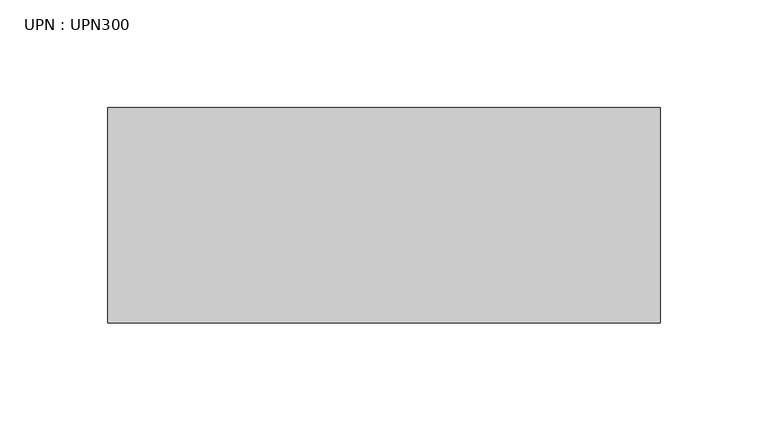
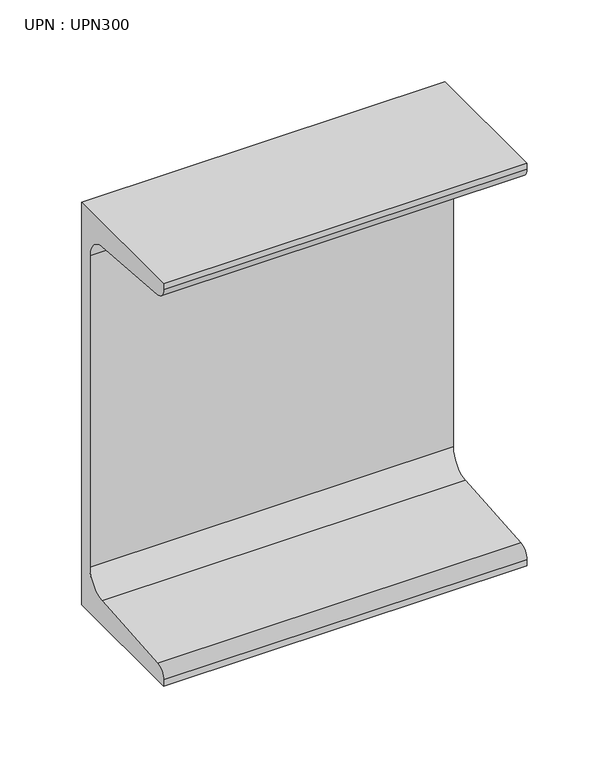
"""IFC4 building model written with IfcOpenShell, lengths in millimetres: beam geometry, UPN : UPN300."""

import ifcopenshell
import ifcopenshell.guid

model = None  # the IFC model being written
_history = None  # IfcOwnerHistory: only IFC2X3 demands one
_inside = {}  # id of a spatial element -> (the spatial element, [elements in it])
_under = {}  # id of a project, library or spatial element -> (it, [spatial elements below it])
_declared = {}  # id of a project -> (the project, [libraries it declares])
_typed = {}  # id of a type object -> (the type object, [elements of that type])
_made_of = {}  # id of a material, layer set ... -> (it, [elements and type objects made of it])


def new_model(schema):
    """Start an empty IFC model of exactly this schema.

    Asked for "IFC4X3", IfcOpenShell would pick the latest addendum, in which some entities
    have other attributes; the version numbers below select the first issue.
    IFC2X3 requires an IfcOwnerHistory on every rooted entity: one is made here for all.
    """
    global model, _history
    if schema == "IFC4X3":
        model = ifcopenshell.file(schema_version=(4, 3, 0, 0))
    else:
        model = ifcopenshell.file(schema=schema)
    _inside.clear()
    _under.clear()
    _declared.clear()
    _typed.clear()
    _made_of.clear()
    _history = None
    if model.schema == "IFC2X3":
        org = make("IfcOrganization", Name="unknown")
        user = make(
            "IfcPersonAndOrganization",
            ThePerson=make("IfcPerson", FamilyName="unknown"),
            TheOrganization=org,
        )
        app = make(
            "IfcApplication",
            ApplicationDeveloper=org,
            Version="unknown",
            ApplicationFullName="unknown",
            ApplicationIdentifier="unknown",
        )
        _history = make(
            "IfcOwnerHistory",
            OwningUser=user,
            OwningApplication=app,
            ChangeAction="ADDED",
            CreationDate=0,
        )
    return model


def make(cls, **values):
    """One entity of the class cls with the attributes given. An attribute that is None is left unset."""
    return model.create_entity(
        cls, **{name: value for name, value in values.items() if value is not None}
    )


def rooted(cls, **values):
    """An entity with a GlobalId (a new one), such as an element, a storey or a relation."""
    return make(cls, GlobalId=ifcopenshell.guid.new(), OwnerHistory=_history, **values)


def si_unit(unit_type, name, prefix=None):
    """IfcSIUnit, for example si_unit("LENGTHUNIT", "METRE", prefix="MILLI")."""
    return make("IfcSIUnit", UnitType=unit_type, Prefix=prefix, Name=name)


def assignment(units):
    """IfcUnitAssignment: the units of a project."""
    return None if units is None else make("IfcUnitAssignment", Units=units)


def point(xyz):
    """IfcCartesianPoint."""
    return None if xyz is None else make("IfcCartesianPoint", Coordinates=xyz)


def direction(xyz):
    """IfcDirection."""
    return None if xyz is None else make("IfcDirection", DirectionRatios=xyz)


def frame(location, z_axis=None, x_axis=None):
    """IfcAxis2Placement3D, a coordinate frame: its origin and axes. An axis left out is left unset."""
    return make(
        "IfcAxis2Placement3D",
        Location=point(location),
        Axis=direction(z_axis),
        RefDirection=direction(x_axis),
    )


def frame_2d(location, x_axis=None):
    """IfcAxis2Placement2D, a coordinate frame in the plane: its origin and x axis."""
    return make(
        "IfcAxis2Placement2D", Location=point(location), RefDirection=direction(x_axis)
    )


def origin():
    """The frame at (0, 0, 0) with its axes left unset."""
    return frame((0.0, 0.0, 0.0))


def place(relative_to, where):
    """IfcLocalPlacement: puts the frame where relative to a parent placement (None: the world)."""
    return make(
        "IfcLocalPlacement", PlacementRelTo=relative_to, RelativePlacement=where
    )


def context(
    kind, dimensions, precision=None, world=None, true_north=None, identifier=None
):
    """IfcGeometricRepresentationContext, for example the 3D "Model" context."""
    return make(
        "IfcGeometricRepresentationContext",
        ContextIdentifier=identifier,
        ContextType=kind,
        CoordinateSpaceDimension=dimensions,
        Precision=precision,
        WorldCoordinateSystem=world,
        TrueNorth=true_north,
    )


def project(units=None, contexts=None):
    """IfcProject with its units and contexts."""
    return rooted(
        "IfcProject",
        Name="project",
        RepresentationContexts=contexts,
        UnitsInContext=assignment(units),
    )


def spatial(cls, under=None, at=None, **own):
    """A site, building, storey or space (cls), placed at a placement, below another one or the project."""
    s = rooted(cls, ObjectPlacement=at, **own)
    if under is not None:
        _under.setdefault(under.id(), (under, []))[1].append(s)
    return s


def polyline(points):
    """IfcPolyline through the points."""
    return make("IfcPolyline", Points=[point(p) for p in points])


def circle_curve(where, radius):
    """IfcCircle in the frame where."""
    return make("IfcCircle", Position=where, Radius=radius)


def trimmed(basis, trim1, trim2, sense, master):
    """IfcTrimmedCurve: the piece of a basis curve between two trims."""
    return make(
        "IfcTrimmedCurve",
        BasisCurve=basis,
        Trim1=trim1,
        Trim2=trim2,
        SenseAgreement=sense,
        MasterRepresentation=master,
    )


def segment(curve, same_sense, transition):
    """IfcCompositeCurveSegment."""
    return make(
        "IfcCompositeCurveSegment",
        Transition=transition,
        SameSense=same_sense,
        ParentCurve=curve,
    )


def composite_curve(segments, self_intersect=None):
    """IfcCompositeCurve: segments joined end to end."""
    return make("IfcCompositeCurve", Segments=segments, SelfIntersect=self_intersect)


def outline(outer, holes=None, kind="AREA"):
    """IfcArbitraryClosedProfileDef: a profile drawn as a closed curve; with holes, ...WithVoids."""
    if holes is None:
        return make("IfcArbitraryClosedProfileDef", ProfileType=kind, OuterCurve=outer)
    return make(
        "IfcArbitraryProfileDefWithVoids",
        ProfileType=kind,
        OuterCurve=outer,
        InnerCurves=holes,
    )


def extrude(swept, where, along, depth):
    """IfcExtrudedAreaSolid: the profile swept, set in the frame where, extruded along a direction by depth."""
    return make(
        "IfcExtrudedAreaSolid",
        SweptArea=swept,
        Position=where,
        ExtrudedDirection=direction(along),
        Depth=depth,
    )


def shape(context_of_items, identifier, shape_type, items):
    """IfcShapeRepresentation: the items that make up one representation, for example the "Body"."""
    return make(
        "IfcShapeRepresentation",
        ContextOfItems=context_of_items,
        RepresentationIdentifier=identifier,
        RepresentationType=shape_type,
        Items=items,
    )


def source(mapping_origin, context_of_items, identifier, shape_type, items):
    """IfcRepresentationMap: a shape defined once, which mapped items show again and again."""
    return make(
        "IfcRepresentationMap",
        MappingOrigin=mapping_origin,
        MappedRepresentation=shape(context_of_items, identifier, shape_type, items),
    )


def transform(
    local_origin,
    x_axis=None,
    y_axis=None,
    z_axis=None,
    scale=None,
    scale2=None,
    scale3=None,
    uniform=True,
):
    """IfcCartesianTransformationOperator3D, or its non-uniform kind. x_axis, y_axis, z_axis: its Axis1, 2, 3."""
    if uniform:
        return make(
            "IfcCartesianTransformationOperator3D",
            Axis1=direction(x_axis),
            Axis2=direction(y_axis),
            LocalOrigin=point(local_origin),
            Scale=scale,
            Axis3=direction(z_axis),
        )
    return make(
        "IfcCartesianTransformationOperator3DnonUniform",
        Axis1=direction(x_axis),
        Axis2=direction(y_axis),
        LocalOrigin=point(local_origin),
        Scale=scale,
        Axis3=direction(z_axis),
        Scale2=scale2,
        Scale3=scale3,
    )


def mapped(mapping_source, mapping_target):
    """IfcMappedItem: shows the shape of a source again, moved by a transform."""
    return make(
        "IfcMappedItem", MappingSource=mapping_source, MappingTarget=mapping_target
    )


def made_of(thing, what):
    """Note that an element or type object is made of a material, layer set ...; save() writes the relation."""
    if what is not None:
        _made_of.setdefault(what.id(), (what, []))[1].append(thing)
    return thing


def element(
    cls,
    number,
    at=None,
    inside=None,
    cuts=None,
    type_object=None,
    material=None,
    context=None,
    identifier="Body",
    shape_type=None,
    held_by="IfcProductDefinitionShape",
    body=None,
    shapes=None,
    **own,
):
    """One element of the class cls, such as IfcWall. Its Tag is "e" and its number.

    at: its placement. inside: the storey or other place that contains it. cuts: it is an
    opening in that element (IfcRelVoidsElement). A single representation is given by context,
    identifier, shape_type and body (its items); several are given by shapes. held_by: the class
    of the entity that holds the representations. save() writes the other relations.
    """
    e = rooted(cls, Tag="e%d" % number, ObjectPlacement=at, **own)
    if body is not None:
        shapes = [shape(context, identifier, shape_type, body)]
    if shapes is not None:
        e.Representation = make(held_by, Representations=shapes)
    if inside is not None:
        _inside.setdefault(inside.id(), (inside, []))[1].append(e)
    if cuts is not None:
        rooted(
            "IfcRelVoidsElement", RelatingBuildingElement=cuts, RelatedOpeningElement=e
        )
    if type_object is not None:
        _typed.setdefault(type_object.id(), (type_object, []))[1].append(e)
    return made_of(e, material)


def aggregate(whole, parts):
    """IfcRelAggregates: a whole, such as a stair, and the parts it consists of."""
    return rooted("IfcRelAggregates", RelatingObject=whole, RelatedObjects=parts)


def save(model, path):
    """Write the relations noted so far, then the file.

    IfcRelAggregates (storeys below a building ...), IfcRelContainedInSpatialStructure (elements
    in a storey), IfcRelDefinesByType, IfcRelAssociatesMaterial and IfcRelDeclares: one each for
    every whole, place, type object, material and project.
    """
    for whole, parts in _under.values():
        aggregate(whole, parts)
    for where, things in _inside.values():
        rooted(
            "IfcRelContainedInSpatialStructure",
            RelatedElements=things,
            RelatingStructure=where,
        )
    for kind, things in _typed.values():
        rooted("IfcRelDefinesByType", RelatedObjects=things, RelatingType=kind)
    for what, things in _made_of.values():
        rooted("IfcRelAssociatesMaterial", RelatedObjects=things, RelatingMaterial=what)
    for by, libraries in _declared.values():
        rooted("IfcRelDeclares", RelatingContext=by, RelatedDefinitions=libraries)
    model.write(path)


def upn_upn300_bb2414cd(model_context):
    return source(origin(), model_context, "Body", "SweptSolid", [
        extrude(outline(composite_curve([segment(polyline([(27.0, 150.0), (27.0, -150.0), (-73.0, -150.0), (-73.0, -145.3826224)]), True, "CONTINUOUS"), segment(trimmed(circle_curve(frame_2d((-65.0, -145.3826224)), 8.0), [point((-73.0, -145.3826224))], [point((-65.637416, -137.4080566))], False, "CARTESIAN"), True, "CONTINUOUS"), segment(polyline([(-65.637416, -137.4080566), (2.274832, -131.9797543)]), True, "CONTINUOUS"), segment(trimmed(circle_curve(frame_2d((1.0, -116.0306225)), 16.0), [point((2.274832, -131.9797543))], [point((17.0, -116.0306225))], True, "CARTESIAN"), True, "CONTINUOUS"), segment(polyline([(17.0, -116.0306225), (17.0, 116.0306225)]), True, "CONTINUOUS"), segment(trimmed(circle_curve(frame_2d((1.0, 116.0306225)), 16.0), [point((17.0, 116.0306225))], [point((2.274832, 131.9797543))], True, "CARTESIAN"), True, "CONTINUOUS"), segment(polyline([(2.274832, 131.9797543), (-65.637416, 137.4080566)]), True, "CONTINUOUS"), segment(trimmed(circle_curve(frame_2d((-65.0, 145.3826224)), 8.0), [point((-65.637416, 137.4080566))], [point((-73.0, 145.3826224))], False, "CARTESIAN"), True, "CONTINUOUS"), segment(polyline([(-73.0, 145.3826224), (-73.0, 150.0), (27.0, 150.0)]), True, "CONTINUOUS")], self_intersect=False)), frame((-127.4, 0.0, 0.0), z_axis=(1.0, 0.0, 0.0), x_axis=(0.0, 1.0, 0.0)), (0.0, 0.0, 1.0), 256.3),
    ])


if __name__ == "__main__":
    model = new_model("IFC4")
    model_context = context("Model", 3, world=origin())
    ifc_project = project(units=[si_unit("LENGTHUNIT", "METRE", prefix="MILLI")], contexts=[model_context])
    site = spatial("IfcSite", under=ifc_project)
    building = spatial("IfcBuilding", under=site)
    placement = place(None, origin())
    upn_upn300_shape = upn_upn300_bb2414cd(model_context)
    element("IfcBeam", 1, ObjectType="UPN : UPN300", at=placement, inside=building, context=model_context, shape_type="MappedRepresentation", body=[
        mapped(upn_upn300_shape, transform((0.0, 0.0, 0.0), x_axis=(1.0, 0.0, 0.0), y_axis=(0.0, 1.0, 0.0), z_axis=(0.0, 0.0, 1.0))),
    ])
    save(model, "model.ifc")
